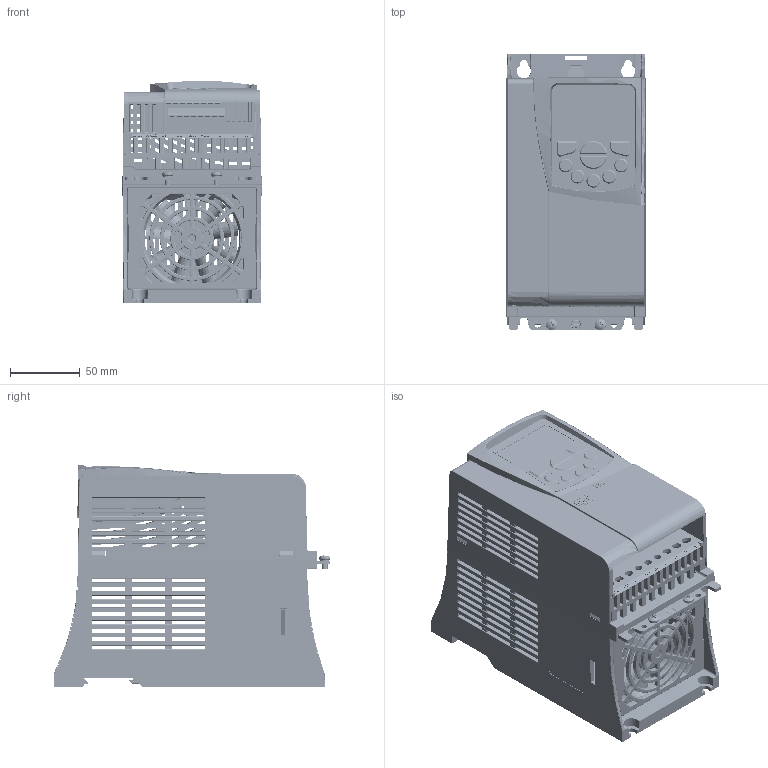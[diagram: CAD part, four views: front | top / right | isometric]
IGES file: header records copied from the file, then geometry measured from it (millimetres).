
Start section: SolidWorks IGES file using analytic representation for surfaces
Global section: file name: C:\SAP_SW\Mec B\CFW500 Mec B IP20.igs; native system: SolidWorks 2014; preprocessor: SolidWorks 2014; author: schuenke; date: 150522.073955; units: millimetre
Bounding box: 100.17 x 199.1 x 160.09 mm (x, y, z)
Surface area: 373747.8 mm2 (no closed solid volume)
Topology: 0 solids, 0 shells, 11258 faces, 92129 edges, 91993 vertices
Faces by surface type: bspline 8332, revolution 2926
